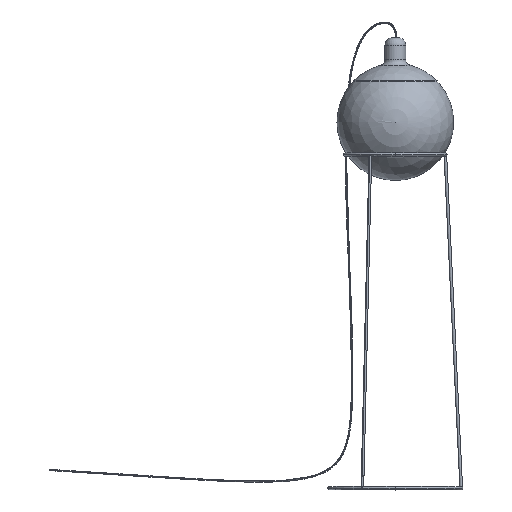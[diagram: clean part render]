
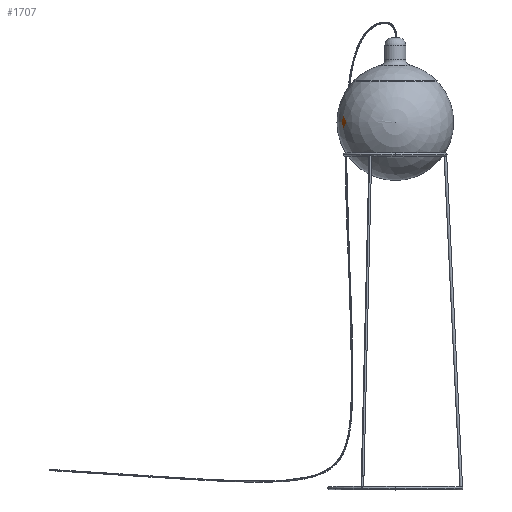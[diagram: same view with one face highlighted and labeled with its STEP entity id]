
A CAD part, top view. The second image highlights one B-rep face of the part: STEP entity #1707.
In plain terms, the highlighted spherical face has radius 175 mm.
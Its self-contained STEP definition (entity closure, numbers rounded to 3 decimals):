
#59 = DIRECTION ( 'NONE',  ( 1., 0., 0. ) ) ;
#226 = CARTESIAN_POINT ( 'NONE',  ( 0., 0., 0. ) ) ;
#397 = CARTESIAN_POINT ( 'NONE',  ( 0., 175., 0. ) ) ;
#502 = AXIS2_PLACEMENT_3D ( 'NONE', #1642, #1824, #741 ) ;
#523 = CIRCLE ( 'NONE', #1506, 175. ) ;
#545 = VERTEX_POINT ( 'NONE', #397 ) ;
#607 = CARTESIAN_POINT ( 'NONE',  ( 0., -175., 0. ) ) ;
#611 = DIRECTION ( 'NONE',  ( 0., 0., -1. ) ) ;
#631 = SPHERICAL_SURFACE ( 'NONE', #502, 175. ) ;
#639 = DIRECTION ( 'NONE',  ( 0., 0., 1. ) ) ;
#741 = DIRECTION ( 'NONE',  ( -1., 0., 0. ) ) ;
#755 = ORIENTED_EDGE ( 'NONE', *, *, #1860, .T. ) ;
#790 = CIRCLE ( 'NONE', #1300, 175. ) ;
#825 = FACE_OUTER_BOUND ( 'NONE', #1044, .T. ) ;
#920 = ORIENTED_EDGE ( 'NONE', *, *, #1109, .F. ) ;
#1044 = EDGE_LOOP ( 'NONE', ( #920, #755 ) ) ;
#1109 = EDGE_CURVE ( 'NONE', #545, #1887, #523, .T. ) ;
#1300 = AXIS2_PLACEMENT_3D ( 'NONE', #2054, #639, #59 ) ;
#1506 = AXIS2_PLACEMENT_3D ( 'NONE', #226, #611, #1866 ) ;
#1642 = CARTESIAN_POINT ( 'NONE',  ( 0., 0., 0. ) ) ;
#1707 = ADVANCED_FACE ( 'NONE', ( #825 ), #631, .T. ) ;
#1824 = DIRECTION ( 'NONE',  ( 0., 0., -1. ) ) ;
#1860 = EDGE_CURVE ( 'NONE', #545, #1887, #790, .T. ) ;
#1866 = DIRECTION ( 'NONE',  ( -1., 0., 0. ) ) ;
#1887 = VERTEX_POINT ( 'NONE', #607 ) ;
#2054 = CARTESIAN_POINT ( 'NONE',  ( 0., 0., 0. ) ) ;
